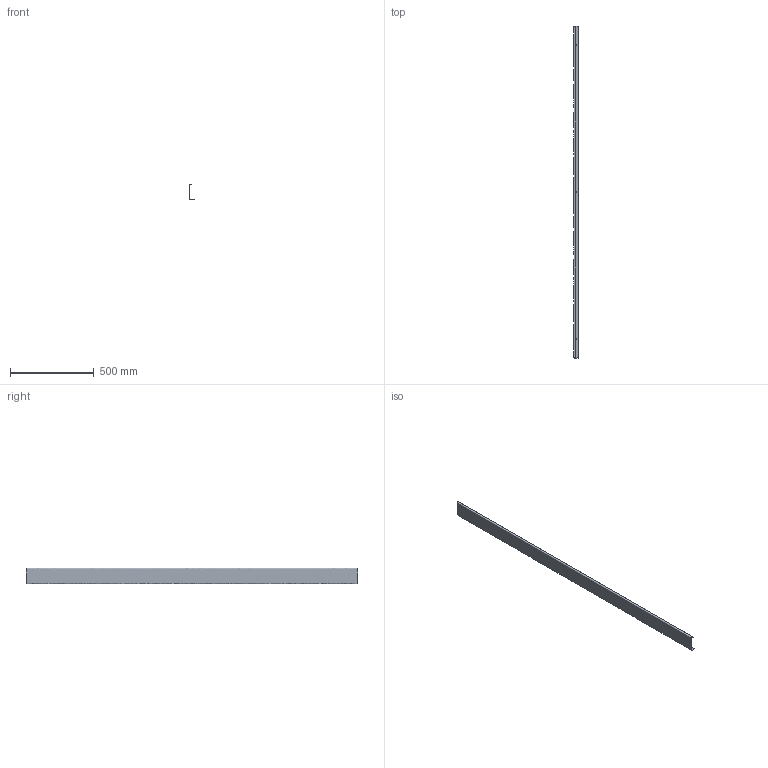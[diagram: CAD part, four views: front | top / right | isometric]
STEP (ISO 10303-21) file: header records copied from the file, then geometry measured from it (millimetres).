
FILE_DESCRIPTION(/* description */ (''),/* implementation_level */ '2;1');
FILE_NAME(/* name */ 'KPZM100',/* time_stamp */ '2012-11-29T22:56:44+01:00',/* author */ (''),/* organization */ (''),/* preprocessor_version */ 'ST-DEVELOPER v10',/* originating_system */ '',/* authorisation */ '');
FILE_SCHEMA (('AUTOMOTIVE_DESIGN_CC2'));
Length unit declared in the file: millimetre
Products named in the file (1): 1
Bounding box: 26.5 x 1985 x 92 mm (x, y, z)
Surface area: 510697.4 mm2 (no closed solid volume)
Topology: 0 solids, 24 shells, 24 faces, 132 edges, 132 vertices
Faces by surface type: plane 14, bspline 10
Entity records: 1598 total; most frequent: CARTESIAN_POINT 696, ORIENTED_EDGE 132, EDGE_CURVE 132, VERTEX_POINT 132, B_SPLINE_CURVE_WITH_KNOTS 116, EDGE_LOOP 30, COLOUR_RGB 24, FILL_AREA_STYLE_COLOUR 24
